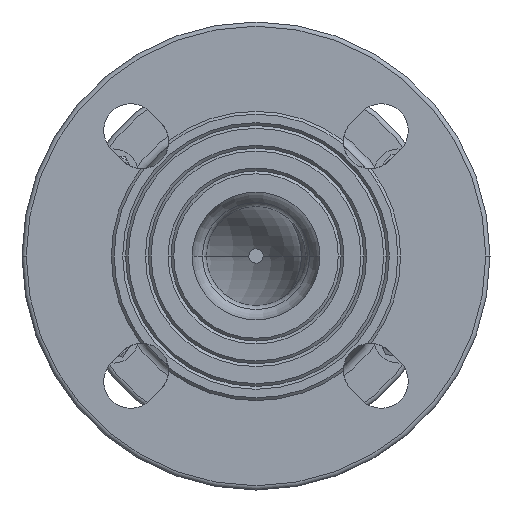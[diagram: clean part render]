
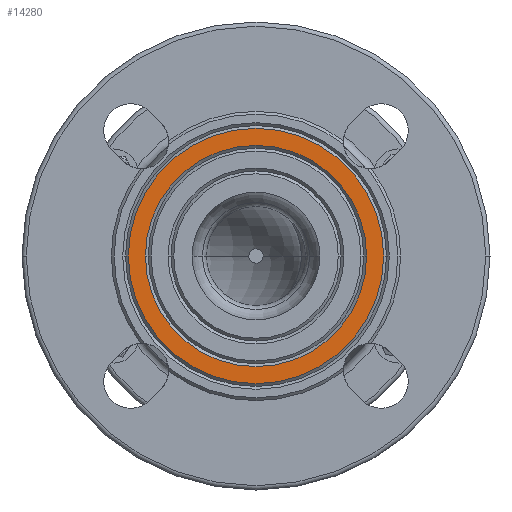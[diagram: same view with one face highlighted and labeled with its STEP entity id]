
A CAD part, front view. The second image highlights one B-rep face of the part: STEP entity #14280.
In plain terms, the highlighted planar face has unit normal (0, -1, 0).
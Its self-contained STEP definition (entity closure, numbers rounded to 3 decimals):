
#192 = ORIENTED_EDGE ( 'NONE', *, *, #8935, .T. ) ;
#711 = CARTESIAN_POINT ( 'NONE',  ( 0., 3., 54.546 ) ) ;
#777 = CARTESIAN_POINT ( 'NONE',  ( -39., 3., 0. ) ) ;
#880 = CARTESIAN_POINT ( 'NONE',  ( 0., 3., 0. ) ) ;
#1859 = CIRCLE ( 'NONE', #8178, 45. ) ;
#1912 = CARTESIAN_POINT ( 'NONE',  ( 0., 3., 0. ) ) ;
#1983 = ORIENTED_EDGE ( 'NONE', *, *, #6229, .F. ) ;
#2353 = DIRECTION ( 'NONE',  ( -1., 0., 0. ) ) ;
#2937 = CIRCLE ( 'NONE', #6621, 45. ) ;
#3269 = EDGE_CURVE ( 'NONE', #13572, #14291, #10117, .T. ) ;
#3335 = DIRECTION ( 'NONE',  ( -1., 0., 0. ) ) ;
#5977 = FACE_BOUND ( 'NONE', #17998, .T. ) ;
#6063 = EDGE_LOOP ( 'NONE', ( #14163, #192 ) ) ;
#6229 = EDGE_CURVE ( 'NONE', #14291, #13572, #13254, .T. ) ;
#6425 = DIRECTION ( 'NONE',  ( 0., -1., 0. ) ) ;
#6621 = AXIS2_PLACEMENT_3D ( 'NONE', #16580, #7876, #18070 ) ;
#7876 = DIRECTION ( 'NONE',  ( 0., -1., 0. ) ) ;
#8178 = AXIS2_PLACEMENT_3D ( 'NONE', #880, #10940, #2353 ) ;
#8833 = CARTESIAN_POINT ( 'NONE',  ( 0., 3., 0. ) ) ;
#8935 = EDGE_CURVE ( 'NONE', #14206, #9134, #2937, .T. ) ;
#9134 = VERTEX_POINT ( 'NONE', #18560 ) ;
#9324 = AXIS2_PLACEMENT_3D ( 'NONE', #8833, #10054, #15830 ) ;
#10054 = DIRECTION ( 'NONE',  ( 0., -1., 0. ) ) ;
#10117 = CIRCLE ( 'NONE', #9324, 39. ) ;
#10940 = DIRECTION ( 'NONE',  ( 0., -1., 0. ) ) ;
#11020 = ORIENTED_EDGE ( 'NONE', *, *, #3269, .F. ) ;
#11374 = CARTESIAN_POINT ( 'NONE',  ( 39., 3., 0. ) ) ;
#11949 = DIRECTION ( 'NONE',  ( 0., -1., 0. ) ) ;
#12160 = AXIS2_PLACEMENT_3D ( 'NONE', #1912, #11949, #3335 ) ;
#12233 = PLANE ( 'NONE',  #14220 ) ;
#13254 = CIRCLE ( 'NONE', #12160, 39. ) ;
#13572 = VERTEX_POINT ( 'NONE', #11374 ) ;
#13699 = DIRECTION ( 'NONE',  ( -1., 0., 0. ) ) ;
#14163 = ORIENTED_EDGE ( 'NONE', *, *, #17810, .T. ) ;
#14206 = VERTEX_POINT ( 'NONE', #17744 ) ;
#14220 = AXIS2_PLACEMENT_3D ( 'NONE', #711, #6425, #13699 ) ;
#14280 = ADVANCED_FACE ( 'NONE', ( #16602, #5977 ), #12233, .T. ) ;
#14291 = VERTEX_POINT ( 'NONE', #777 ) ;
#15830 = DIRECTION ( 'NONE',  ( -1., 0., 0. ) ) ;
#16580 = CARTESIAN_POINT ( 'NONE',  ( 0., 3., 0. ) ) ;
#16602 = FACE_OUTER_BOUND ( 'NONE', #6063, .T. ) ;
#17744 = CARTESIAN_POINT ( 'NONE',  ( -45., 3., 0. ) ) ;
#17810 = EDGE_CURVE ( 'NONE', #9134, #14206, #1859, .T. ) ;
#17998 = EDGE_LOOP ( 'NONE', ( #1983, #11020 ) ) ;
#18070 = DIRECTION ( 'NONE',  ( -1., 0., 0. ) ) ;
#18560 = CARTESIAN_POINT ( 'NONE',  ( 45., 3., 0. ) ) ;
